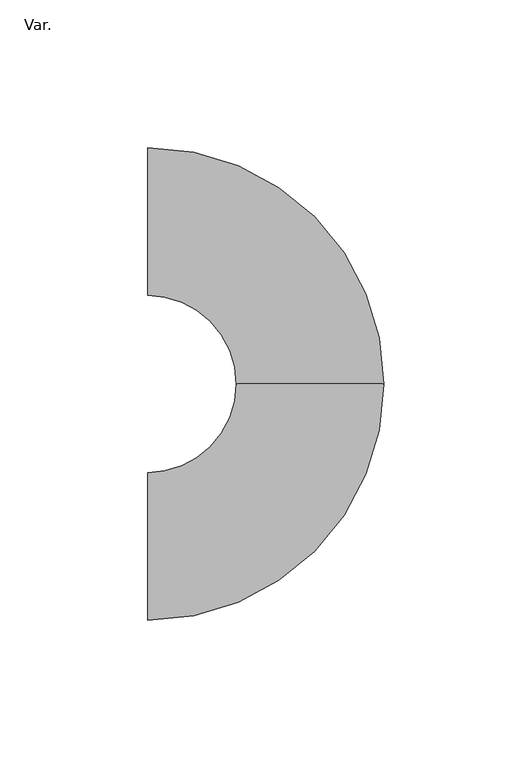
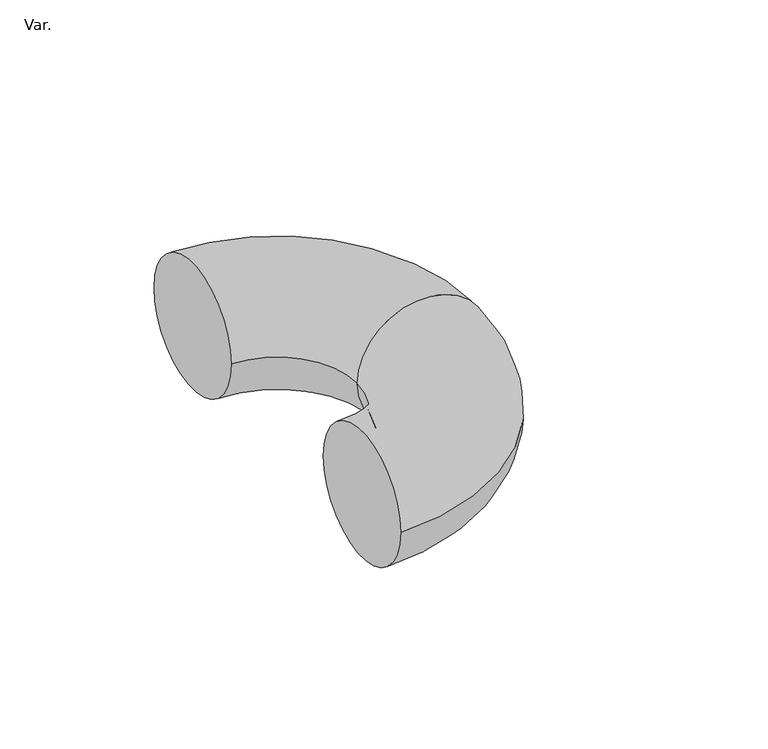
"""IFC4 building model written with IfcOpenShell, lengths in millimetres: pipe fitting geometry, PIF_HDPE bend 180_Akatherm : Var.."""

from ifc_helpers import new_model, si_unit, point, frame, origin, place, context, project, spatial, circle_curve, ellipse_curve, trimmed, source, transform, mapped, element, save
from ifc_brep_helpers import plane_surface, revolved_surface, advanced_brep


def var_2668025b(model_context):
    return source(origin(), model_context, "Body", "AdvancedBrep", [
        advanced_brep(
        [(-55.0, -25.0, 0.0), (-55.0, 25.0, 0.0), (25.0, 55.0, 0.0), (-25.0, 55.0, 0.0), (-55.0, 85.0, 0.0), (-55.0, 135.0, 0.0)],
        [
            (0, 1, circle_curve(frame((-55.0, 0.0, 0.0), z_axis=(-1.0, 0.0, 0.0), x_axis=(0.0, 1.0, 0.0)), 25.0)),
            (1, 0, circle_curve(frame((-55.0, 0.0, 0.0), z_axis=(-1.0, 0.0, 0.0), x_axis=(0.0, 1.0, 0.0)), 25.0)),
            (0, 2, circle_curve(frame((-55.0, 55.0, 0.0), z_axis=(0.0, 0.0, 1.0), x_axis=(0.0, -1.0, 0.0)), 80.0)),
            (2, 3, circle_curve(frame((0.0, 55.0, 0.0), z_axis=(0.0, -1.0, 0.0), x_axis=(-1.0, 0.0, 0.0)), 25.0)),
            (3, 1, circle_curve(frame((-55.0, 55.0, 0.0), z_axis=(0.0, 0.0, -1.0), x_axis=(0.0, -1.0, 0.0)), 30.0)),
            (3, 2, circle_curve(frame((0.0, 55.0, 0.0), z_axis=(0.0, -1.0, 0.0), x_axis=(-1.0, 0.0, 0.0)), 25.0)),
            (4, 5, circle_curve(frame((-55.0, 110.0, 0.0), z_axis=(-1.0, 0.0, 0.0), x_axis=(0.0, 1.0, 0.0)), 25.0)),
            (5, 4, circle_curve(frame((-55.0, 110.0, 0.0), z_axis=(-1.0, 0.0, 0.0), x_axis=(0.0, 1.0, 0.0)), 25.0)),
            (5, 2, circle_curve(frame((-55.0, 55.0, 0.0), z_axis=(0.0, 0.0, -1.0), x_axis=(0.0, 1.0, 0.0)), 80.0)),
            (3, 4, circle_curve(frame((-55.0, 55.0, 0.0), z_axis=(0.0, 0.0, 1.0), x_axis=(0.0, 1.0, 0.0)), 30.0)),
        ],
        [
            plane_surface(frame((-55.0, 0.0, 0.0), z_axis=(-1.0, 0.0, 0.0), x_axis=(0.0, 0.0, 1.0))),
            revolved_surface(trimmed(ellipse_curve(frame((-55.0, 0.0, 0.0), z_axis=(-1.0, 0.0, 0.0), x_axis=(0.0, 1.0, 0.0)), 25.0, 25.0), [point((-55.0, -25.0, 0.0))], [point((-55.0, 25.0, 0.0))], True, "CARTESIAN"), (-55.0, 55.0, 0.0), (0.0, 0.0, 1.0)),
            revolved_surface(trimmed(ellipse_curve(frame((-55.0, 0.0, 0.0), z_axis=(-1.0, 0.0, 0.0), x_axis=(0.0, 1.0, 0.0)), 25.0, 25.0), [point((-55.0, 25.0, 0.0))], [point((-55.0, -25.0, 0.0))], True, "CARTESIAN"), (-55.0, 55.0, 0.0), (0.0, 0.0, 1.0)),
            plane_surface(frame((-55.0, 110.0, 0.0), z_axis=(-1.0, 0.0, 0.0), x_axis=(0.0, 0.0, 1.0))),
            revolved_surface(trimmed(ellipse_curve(frame((-55.0, 110.0, 0.0), z_axis=(-1.0, 0.0, 0.0), x_axis=(0.0, 1.0, 0.0)), 25.0, 25.0), [point((-55.0, 135.0, 0.0))], [point((-55.0, 85.0, 0.0))], True, "CARTESIAN"), (-55.0, 55.0, 0.0), (0.0, 0.0, -1.0)),
            revolved_surface(trimmed(ellipse_curve(frame((-55.0, 110.0, 0.0), z_axis=(-1.0, 0.0, 0.0), x_axis=(0.0, 1.0, 0.0)), 25.0, 25.0), [point((-55.0, 85.0, 0.0))], [point((-55.0, 135.0, 0.0))], True, "CARTESIAN"), (-55.0, 55.0, 0.0), (0.0, 0.0, -1.0)),
        ],
        [
            (0, [[1, 2]]),
            (1, [[-1, 3, 4, 5]]),
            (2, [[-2, -5, 6, -3]]),
            (3, [[7, 8]]),
            (4, [[-8, 9, -6, 10]]),
            (5, [[-7, -10, -4, -9]]),
        ],
    ),
    ])


if __name__ == "__main__":
    model = new_model("IFC4")
    model_context = context("Model", 3, world=origin())
    ifc_project = project(units=[si_unit("LENGTHUNIT", "METRE", prefix="MILLI")], contexts=[model_context])
    site = spatial("IfcSite", under=ifc_project)
    building = spatial("IfcBuilding", under=site)
    placement = place(None, origin())
    var_shape = var_2668025b(model_context)
    element("IfcPipeFitting", 1, ObjectType="PIF_HDPE bend 180_Akatherm : Var.", at=placement, inside=building, context=model_context, shape_type="MappedRepresentation", body=[
        mapped(var_shape, transform((0.0, 0.0, 0.0), x_axis=(1.0, 0.0, 0.0), y_axis=(0.0, 1.0, 0.0), z_axis=(0.0, 0.0, 1.0))),
    ])
    save(model, "model.ifc")
